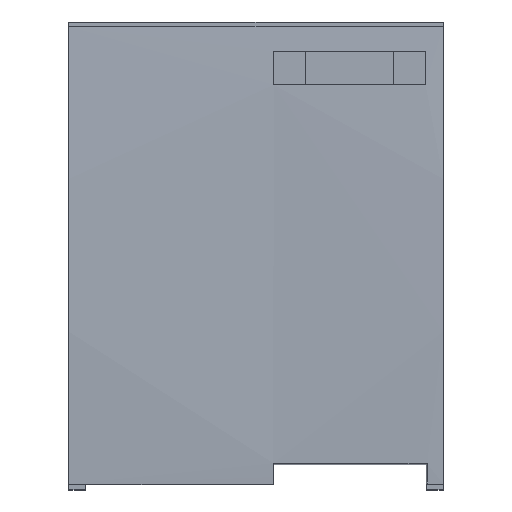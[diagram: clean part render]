
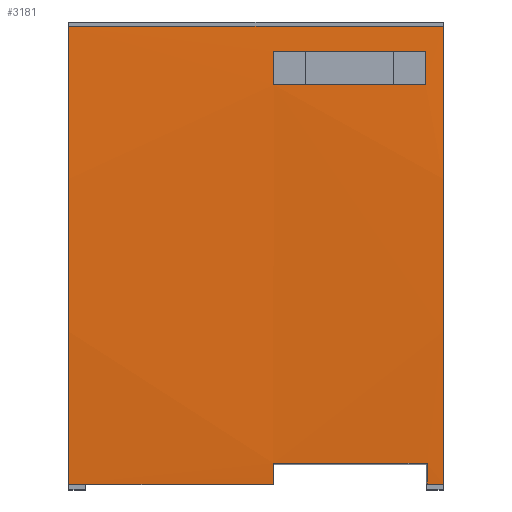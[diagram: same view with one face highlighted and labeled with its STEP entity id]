
A CAD part, top view. The second image highlights one B-rep face of the part: STEP entity #3181.
In plain terms, the highlighted cylindrical face has radius 400 mm (diameter 800 mm), a partial arc.
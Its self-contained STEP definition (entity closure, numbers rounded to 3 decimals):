
#62=CARTESIAN_POINT('',(0.,23.25,-320.061));
#63=DIRECTION('',(1.,0.,0.));
#64=DIRECTION('',(0.,0.053,0.999));
#65=AXIS2_PLACEMENT_3D('',#62,#63,#64);
#134=DIRECTION('',(1.,0.,0.));
#135=VECTOR('',#134,14.783);
#136=CARTESIAN_POINT('',(19.669,2.5,79.4));
#137=LINE('',#136,#135);
#141=CARTESIAN_POINT('',(19.669,23.25,-320.061));
#142=DIRECTION('',(1.,0.,0.));
#143=DIRECTION('',(0.,-0.052,0.999));
#144=AXIS2_PLACEMENT_3D('',#141,#142,#143);
#149=DIRECTION('',(1.,0.,0.));
#150=VECTOR('',#149,36.);
#151=CARTESIAN_POINT('',(0.,44.5,79.374));
#152=LINE('',#151,#150);
#156=CARTESIAN_POINT('',(34.452,2.5,79.4));
#157=CARTESIAN_POINT('',(34.452,1.833,79.365));
#158=CARTESIAN_POINT('',(34.451,1.167,79.329));
#159=CARTESIAN_POINT('',(34.451,0.5,79.291));
#164=CARTESIAN_POINT('',(19.696,38.896,79.632));
#165=CARTESIAN_POINT('',(19.696,39.251,79.619));
#166=CARTESIAN_POINT('',(19.698,39.963,79.59));
#167=CARTESIAN_POINT('',(19.7,41.031,79.544));
#168=CARTESIAN_POINT('',(19.701,41.742,79.511));
#169=CARTESIAN_POINT('',(19.702,42.098,79.494));
#174=DIRECTION('',(1.,0.,0.));
#175=VECTOR('',#174,14.608);
#176=CARTESIAN_POINT('',(19.696,38.896,79.632));
#177=LINE('',#176,#175);
#181=CARTESIAN_POINT('',(34.298,42.098,79.494));
#182=CARTESIAN_POINT('',(34.299,41.742,79.511));
#183=CARTESIAN_POINT('',(34.3,41.031,79.544));
#184=CARTESIAN_POINT('',(34.302,39.963,79.59));
#185=CARTESIAN_POINT('',(34.304,39.251,79.619));
#186=CARTESIAN_POINT('',(34.304,38.896,79.632));
#191=DIRECTION('',(1.,0.,0.));
#192=VECTOR('',#191,14.596);
#193=CARTESIAN_POINT('',(19.702,42.098,79.494));
#194=LINE('',#193,#192);
#275=DIRECTION('',(1.,0.,0.));
#276=VECTOR('',#275,19.669);
#277=CARTESIAN_POINT('',(0.,0.5,79.291));
#278=LINE('',#277,#276);
#289=DIRECTION('',(1.,0.,0.));
#290=VECTOR('',#289,1.549);
#291=CARTESIAN_POINT('',(34.451,0.5,79.291));
#292=LINE('',#291,#290);
#762=CARTESIAN_POINT('',(36.,23.25,-320.061));
#763=DIRECTION('',(1.,0.,0.));
#764=DIRECTION('',(0.,0.053,0.999));
#765=AXIS2_PLACEMENT_3D('',#762,#763,#764);
#2661=CARTESIAN_POINT('',(0.,44.5,79.374));
#2662=CARTESIAN_POINT('',(0.,0.5,79.291));
#2663=VERTEX_POINT('',#2661);
#2664=VERTEX_POINT('',#2662);
#2681=CARTESIAN_POINT('',(36.,44.5,79.374));
#2682=CARTESIAN_POINT('',(36.,0.5,79.291));
#2683=VERTEX_POINT('',#2681);
#2684=VERTEX_POINT('',#2682);
#3033=CARTESIAN_POINT('',(19.669,2.5,79.4));
#3034=CARTESIAN_POINT('',(34.452,2.5,79.4));
#3035=VERTEX_POINT('',#3033);
#3036=VERTEX_POINT('',#3034);
#3037=CARTESIAN_POINT('',(19.669,0.5,79.291));
#3038=VERTEX_POINT('',#3037);
#3039=VERTEX_POINT('',#159);
#3100=VERTEX_POINT('',#164);
#3101=VERTEX_POINT('',#169);
#3102=CARTESIAN_POINT('',(34.304,38.896,79.632));
#3103=VERTEX_POINT('',#3102);
#3104=VERTEX_POINT('',#181);
#3149=CARTESIAN_POINT('',(0.,23.25,-320.061));
#3150=DIRECTION('',(1.,0.,0.));
#3151=DIRECTION('',(0.,0.,-1.));
#3152=AXIS2_PLACEMENT_3D('',#3149,#3150,#3151);
#3153=CYLINDRICAL_SURFACE('',#3152,400.);
#3155=ORIENTED_EDGE('',*,*,#3154,.F.);
#3157=ORIENTED_EDGE('',*,*,#3156,.T.);
#3159=ORIENTED_EDGE('',*,*,#3158,.F.);
#3160=ORIENTED_EDGE('',*,*,#3126,.F.);
#3162=ORIENTED_EDGE('',*,*,#3161,.T.);
#3164=ORIENTED_EDGE('',*,*,#3163,.T.);
#3166=ORIENTED_EDGE('',*,*,#3165,.F.);
#3168=ORIENTED_EDGE('',*,*,#3167,.F.);
#3169=EDGE_LOOP('',(#3155,#3157,#3159,#3160,#3162,#3164,#3166,#3168));
#3170=FACE_OUTER_BOUND('',#3169,.F.);
#3172=ORIENTED_EDGE('',*,*,#3171,.F.);
#3174=ORIENTED_EDGE('',*,*,#3173,.T.);
#3176=ORIENTED_EDGE('',*,*,#3175,.F.);
#3178=ORIENTED_EDGE('',*,*,#3177,.F.);
#3179=EDGE_LOOP('',(#3172,#3174,#3176,#3178));
#3180=FACE_BOUND('',#3179,.F.);
#66=CIRCLE('',#65,400.);
#145=CIRCLE('',#144,400.);
#160=B_SPLINE_CURVE_WITH_KNOTS('',3,(#156,#157,#158,#159),.UNSPECIFIED.,.F.,.F.,
(4,4),(0.,1.),.UNSPECIFIED.);
#170=B_SPLINE_CURVE_WITH_KNOTS('',3,(#164,#165,#166,#167,#168,#169),
.UNSPECIFIED.,.F.,.F.,(4,1,1,4),(0.,0.333,0.667,1.),
.UNSPECIFIED.);
#187=B_SPLINE_CURVE_WITH_KNOTS('',3,(#181,#182,#183,#184,#185,#186),
.UNSPECIFIED.,.F.,.F.,(4,1,1,4),(0.,0.333,0.667,1.),
.UNSPECIFIED.);
#766=CIRCLE('',#765,400.);
#3126=EDGE_CURVE('',#2663,#2664,#66,.T.);
#3154=EDGE_CURVE('',#3035,#3036,#137,.T.);
#3156=EDGE_CURVE('',#3035,#3038,#145,.T.);
#3158=EDGE_CURVE('',#2664,#3038,#278,.T.);
#3161=EDGE_CURVE('',#2663,#2683,#152,.T.);
#3163=EDGE_CURVE('',#2683,#2684,#766,.T.);
#3165=EDGE_CURVE('',#3039,#2684,#292,.T.);
#3167=EDGE_CURVE('',#3036,#3039,#160,.T.);
#3171=EDGE_CURVE('',#3100,#3101,#170,.T.);
#3173=EDGE_CURVE('',#3100,#3103,#177,.T.);
#3175=EDGE_CURVE('',#3104,#3103,#187,.T.);
#3177=EDGE_CURVE('',#3101,#3104,#194,.T.);
#3181=ADVANCED_FACE('',(#3170,#3180),#3153,.T.);
